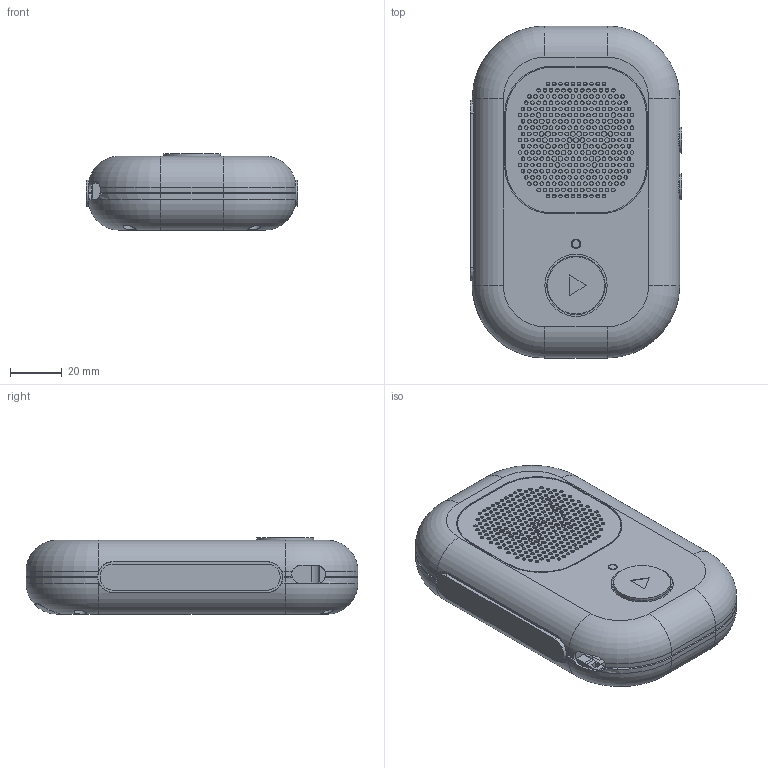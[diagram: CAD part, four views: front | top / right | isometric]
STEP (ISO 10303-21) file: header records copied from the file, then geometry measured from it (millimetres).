
FILE_DESCRIPTION(('Open CASCADE Model'),'2;1');
FILE_NAME('Open CASCADE Shape Model','2026-09-08T11:15:49',('Author'),( 'Open CASCADE'),'Open CASCADE STEP processor 7.7','Open CASCADE 7.7' ,'Unknown');
FILE_SCHEMA(('AUTOMOTIVE_DESIGN { 1 0 10303 214 1 1 1 1 }'));
Length unit declared in the file: millimetre
Products named in the file (58): Walkie_One_23_2_R9_Soapbar; 01_front_stainless; 01_front_stainless_part; 02_rear_stainless; 02_rear_stainless_part; 03_insulating_chassis; 03_insulating_chassis_part; 04_RF_rear_window; 04_RF_rear_window_part; 21_RF_window_bond; 21_RF_window_bond_part; 05_perforated_grille; 05_perforated_grille_part; 06_grille_support; 06_grille_support_part; 07_grille_bond; 07_grille_bond_part; 08_play_guide; 08_play_guide_part; 09_play_cap; 09_play_cap_part; 10_play_actuator; 10_play_actuator_part; 11_status_lightpipe; 11_status_lightpipe_part; 12_PTT_cap; 12_PTT_cap_part; 13_PTT_diaphragm; 13_PTT_diaphragm_part; 12_volume_up_cap; 12_volume_up_cap_part; 13_volume_up_diaphragm; 13_volume_up_diaphragm_part; 12_volume_down_cap; 12_volume_down_cap_part; 13_volume_down_diaphragm; 13_volume_down_diaphragm_part; 14_battery_tray; 14_battery_tray_part; 15_battery_isolation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
Assembly tree (57 placements, depth 4):
  Walkie_One_23_2_R9_Soapbar
    Walkie_One_23_2_R9_Soapbar
      01_front_stainless
        01_front_stainless_part
      02_rear_stainless
        02_rear_stainless_part
      03_insulating_chassis
        03_insulating_chassis_part
      04_RF_rear_window
        04_RF_rear_window_part
      21_RF_window_bond
        21_RF_window_bond_part
      05_perforated_grille
        05_perforated_grille_part
      06_grille_support
        06_grille_support_part
      07_grille_bond
        07_grille_bond_part
      08_play_guide
        08_play_guide_part
      09_play_cap
        09_play_cap_part
      10_play_actuator
        10_play_actuator_part
      11_status_lightpipe
        11_status_lightpipe_part
      12_PTT_cap
        12_PTT_cap_part
      13_PTT_diaphragm
        13_PTT_diaphragm_part
      12_volume_up_cap
        12_volume_up_cap_part
      13_volume_up_diaphragm
        13_volume_up_diaphragm_part
      12_volume_down_cap
        12_volume_down_cap_part
      13_volume_down_diaphragm
        13_volume_down_diaphragm_part
      14_battery_tray
        14_battery_tray_part
      15_battery_isolation
        15_battery_isolation_part
      16_PCB_rail_L
        16_PCB_rail_L_part
      16_PCB_rail_R
        16_PCB_rail_R_part
      19_speaker_cradle
        19_speaker_cradle_part
      20_play_switch_carrier
        20_play_switch_carrier_part
      18_M2x20_rear_1
        18_M2x20_rear_1_part
      18_M2x20_rear_2
        18_M2x20_rear_2_part
      18_M2x20_rear_3
        18_M2x20_rear_3_part
      18_M2x20_rear_4
        18_M2x20_rear_4_part
Bounding box: 81.4 x 128 x 29.4 mm (x, y, z)
Volume: 60170.7 mm3; surface area: 97881.2 mm2
Topology: 28 solids, 28 shells, 960 faces, 2580 edges, 1707 vertices
Faces by surface type: cylinder 534, plane 392, torus 34
Full cylindrical faces by diameter (mm): 1.4 x284, 1.8 x31, 1.96 x4, 2 x4, 2.8 x8, 3 x1, 3.6 x1, 4 x1, 4.4 x1, 4.6 x4, 5 x4, 5.6 x4, 6.8 x8, 10 x4, 11.8 x2, 13 x4, 21 x1, 22 x1, 22.5 x1, 23.8 x1, 24 x1, 26.4 x1
Entity records: 81996 total; most frequent: CARTESIAN_POINT 30602, DIRECTION 8942, ORIENTED_EDGE 5160, PCURVE 5160, DEFINITIONAL_REPRESENTATION 5160, LINE 4401, VECTOR 4401, EDGE_CURVE 2580
